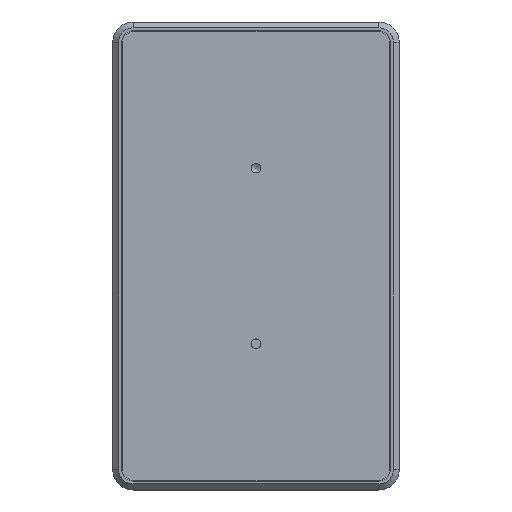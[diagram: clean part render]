
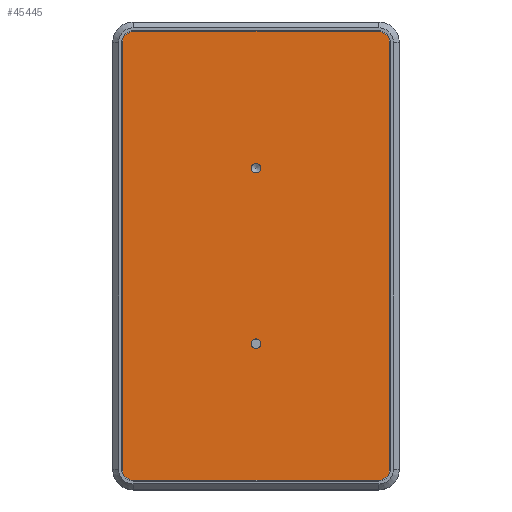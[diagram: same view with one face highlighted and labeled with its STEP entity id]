
A CAD part, top view. The second image highlights one B-rep face of the part: STEP entity #45445.
In plain terms, the highlighted planar face has unit normal (0, 0, 1).
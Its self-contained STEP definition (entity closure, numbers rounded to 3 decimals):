
#1204=FACE_BOUND('',#12275,.T.);
#1205=FACE_BOUND('',#12276,.T.);
#3129=LINE('',#73299,#6255);
#3130=LINE('',#73303,#6256);
#3131=LINE('',#73307,#6257);
#3132=LINE('',#73310,#6258);
#6255=VECTOR('',#54115,10.);
#6256=VECTOR('',#54118,10.);
#6257=VECTOR('',#54121,10.);
#6258=VECTOR('',#54124,10.);
#9610=FACE_OUTER_BOUND('',#12274,.T.);
#12274=EDGE_LOOP('',(#29990,#29991,#29992,#29993,#29994,#29995,#29996,#29997));
#12275=EDGE_LOOP('',(#29998));
#12276=EDGE_LOOP('',(#29999));
#15121=CIRCLE('',#48316,4.);
#15122=CIRCLE('',#48317,4.);
#15123=CIRCLE('',#48318,4.);
#15124=CIRCLE('',#48319,4.);
#15125=CIRCLE('',#48320,1.621);
#15126=CIRCLE('',#48321,1.621);
#18221=VERTEX_POINT('',#73295);
#18222=VERTEX_POINT('',#73296);
#18223=VERTEX_POINT('',#73298);
#18224=VERTEX_POINT('',#73300);
#18225=VERTEX_POINT('',#73302);
#18226=VERTEX_POINT('',#73304);
#18227=VERTEX_POINT('',#73306);
#18228=VERTEX_POINT('',#73308);
#18229=VERTEX_POINT('',#73311);
#18230=VERTEX_POINT('',#73313);
#22854=EDGE_CURVE('',#18221,#18222,#15121,.T.);
#22855=EDGE_CURVE('',#18223,#18221,#3129,.T.);
#22856=EDGE_CURVE('',#18224,#18223,#15122,.T.);
#22857=EDGE_CURVE('',#18225,#18224,#3130,.T.);
#22858=EDGE_CURVE('',#18226,#18225,#15123,.T.);
#22859=EDGE_CURVE('',#18227,#18226,#3131,.T.);
#22860=EDGE_CURVE('',#18228,#18227,#15124,.T.);
#22861=EDGE_CURVE('',#18222,#18228,#3132,.T.);
#22862=EDGE_CURVE('',#18229,#18229,#15125,.T.);
#22863=EDGE_CURVE('',#18230,#18230,#15126,.T.);
#29990=ORIENTED_EDGE('',*,*,#22854,.F.);
#29991=ORIENTED_EDGE('',*,*,#22855,.F.);
#29992=ORIENTED_EDGE('',*,*,#22856,.F.);
#29993=ORIENTED_EDGE('',*,*,#22857,.F.);
#29994=ORIENTED_EDGE('',*,*,#22858,.F.);
#29995=ORIENTED_EDGE('',*,*,#22859,.F.);
#29996=ORIENTED_EDGE('',*,*,#22860,.F.);
#29997=ORIENTED_EDGE('',*,*,#22861,.F.);
#29998=ORIENTED_EDGE('',*,*,#22862,.T.);
#29999=ORIENTED_EDGE('',*,*,#22863,.T.);
#41674=PLANE('',#48315);
#45445=ADVANCED_FACE('',(#9610,#1204,#1205),#41674,.F.);
#48315=AXIS2_PLACEMENT_3D('',#73294,#54111,#54112);
#48316=AXIS2_PLACEMENT_3D('',#73297,#54113,#54114);
#48317=AXIS2_PLACEMENT_3D('',#73301,#54116,#54117);
#48318=AXIS2_PLACEMENT_3D('',#73305,#54119,#54120);
#48319=AXIS2_PLACEMENT_3D('',#73309,#54122,#54123);
#48320=AXIS2_PLACEMENT_3D('',#73312,#54125,#54126);
#48321=AXIS2_PLACEMENT_3D('',#73314,#54127,#54128);
#54111=DIRECTION('center_axis',(0.,0.,
-1.));
#54112=DIRECTION('ref_axis',(-1.,0.,0.));
#54113=DIRECTION('center_axis',(0.,0.,
-1.));
#54114=DIRECTION('ref_axis',(-1.,0.,0.));
#54115=DIRECTION('',(-1.,0.,0.));
#54116=DIRECTION('center_axis',(0.,0.,
-1.));
#54117=DIRECTION('ref_axis',(0.,-1.,0.));
#54118=DIRECTION('',(0.,-1.,0.));
#54119=DIRECTION('center_axis',(0.,0.,
-1.));
#54120=DIRECTION('ref_axis',(1.,0.,0.));
#54121=DIRECTION('',(1.,0.,0.));
#54122=DIRECTION('center_axis',(0.,0.,
-1.));
#54123=DIRECTION('ref_axis',(0.,1.,0.));
#54124=DIRECTION('',(0.,1.,0.));
#54125=DIRECTION('center_axis',(0.,0.,
-1.));
#54126=DIRECTION('ref_axis',(1.,0.,0.));
#54127=DIRECTION('center_axis',(0.,0.,
-1.));
#54128=DIRECTION('ref_axis',(1.,0.,0.));
#73294=CARTESIAN_POINT('Origin',(9.324,80.89,33.));
#73295=CARTESIAN_POINT('',(7.574,4.14,33.));
#73296=CARTESIAN_POINT('',(3.574,8.14,33.));
#73297=CARTESIAN_POINT('Origin',(7.574,8.14,33.));
#73298=CARTESIAN_POINT('',(91.074,4.14,33.));
#73299=CARTESIAN_POINT('',(7.574,4.14,33.));
#73300=CARTESIAN_POINT('',(95.074,8.14,33.));
#73301=CARTESIAN_POINT('Origin',(91.074,8.14,33.));
#73302=CARTESIAN_POINT('',(95.074,153.64,33.));
#73303=CARTESIAN_POINT('',(95.074,8.14,33.));
#73304=CARTESIAN_POINT('',(91.074,157.64,33.));
#73305=CARTESIAN_POINT('Origin',(91.074,153.64,33.));
#73306=CARTESIAN_POINT('',(7.574,157.64,33.));
#73307=CARTESIAN_POINT('',(91.074,157.64,33.));
#73308=CARTESIAN_POINT('',(3.574,153.64,33.));
#73309=CARTESIAN_POINT('Origin',(7.574,153.64,33.));
#73310=CARTESIAN_POINT('',(3.574,153.64,33.));
#73311=CARTESIAN_POINT('',(47.703,110.89,33.));
#73312=CARTESIAN_POINT('Origin',(49.324,110.89,33.));
#73313=CARTESIAN_POINT('',(47.703,50.89,33.));
#73314=CARTESIAN_POINT('Origin',(49.324,50.89,33.));
